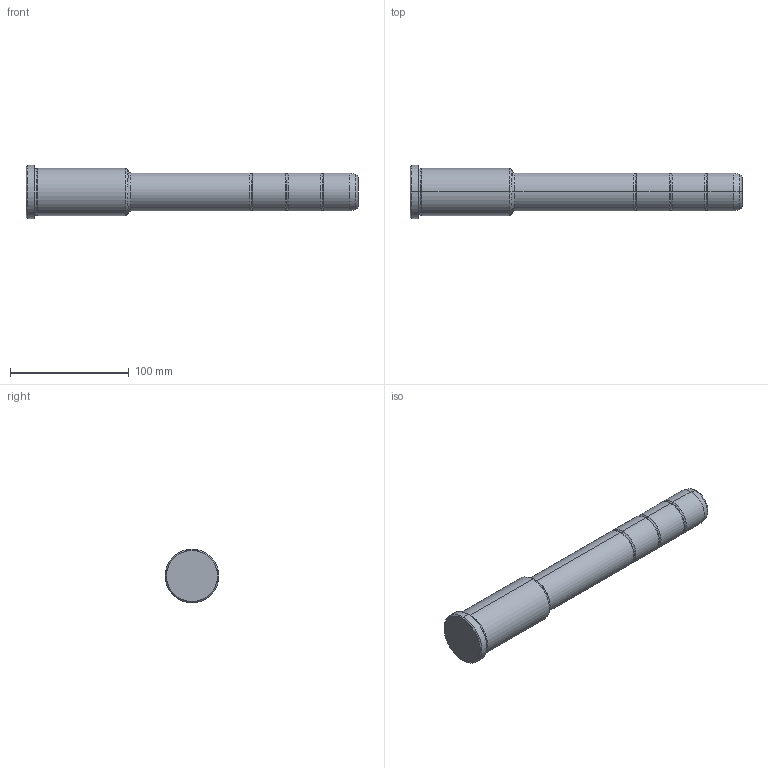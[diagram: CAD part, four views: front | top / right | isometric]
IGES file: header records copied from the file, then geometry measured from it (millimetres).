
Start section: START RECORD GO HERE.
Global section: file name: 351-32X86X280.igs; native system: DASSAULT SYSTEMES CATIA V5 R20 - www.3ds.com; preprocessor: CATIA Version 5 Release 20 ; author: Utente; organization: NB04-ASUS; date: 20210910.142319; units: millimetre
Bounding box: 280 x 45 x 45 mm (x, y, z)
Surface area: 33225.4 mm2 (no closed solid volume)
Topology: 0 solids, 0 shells, 42 faces, 236 edges, 236 vertices
Faces by surface type: revolution 38, plane 4
